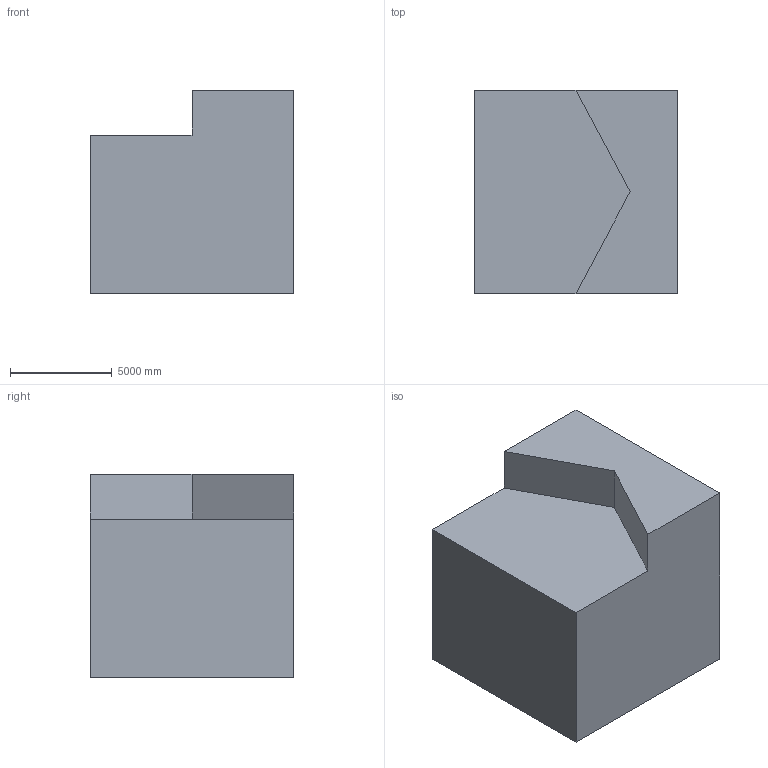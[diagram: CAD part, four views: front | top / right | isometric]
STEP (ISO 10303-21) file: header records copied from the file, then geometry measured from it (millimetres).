
FILE_DESCRIPTION (( 'STEP AP203' ), '1' );
FILE_NAME ('200.STEP', '2022-09-07T12:16:09', ( 'user' ), ( '' ), 'SwSTEP 2.0', 'SolidWorks 2021', '' );
FILE_SCHEMA (( 'CONFIG_CONTROL_DESIGN' ));
Length unit declared in the file: centimetre
Products named in the file (1): 200
Bounding box: 10000 x 10000 x 10000 mm (x, y, z)
Volume: 822320603662.9 mm3; surface area: 606346965.1 mm2
Topology: 1 solids, 1 shells, 12 faces, 27 edges, 18 vertices
Faces by surface type: plane 10, cylinder 2
Entity records: 412 total; most frequent: CARTESIAN_POINT 58, DIRECTION 57, ORIENTED_EDGE 54, EDGE_CURVE 27, LINE 23, VECTOR 23, VERTEX_POINT 18, AXIS2_PLACEMENT_3D 17
